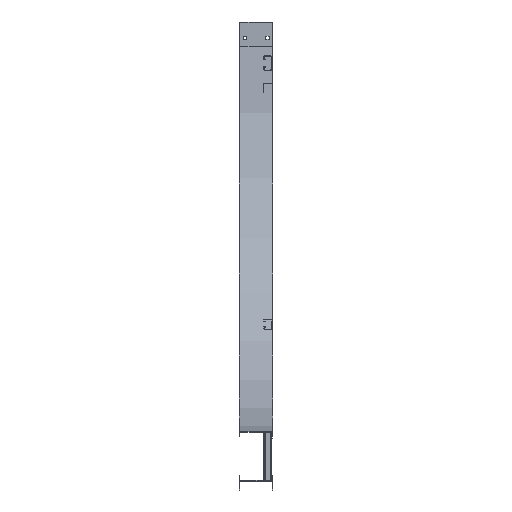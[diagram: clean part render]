
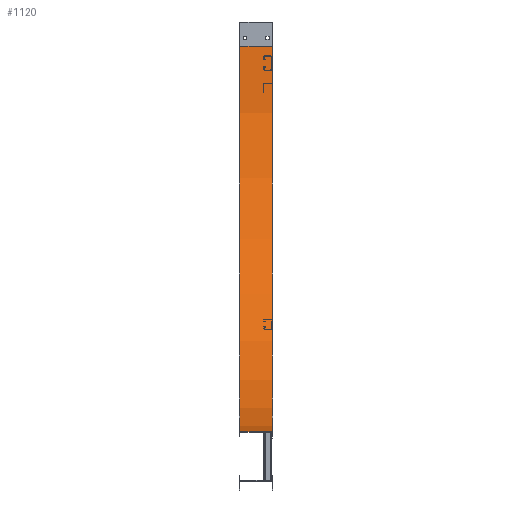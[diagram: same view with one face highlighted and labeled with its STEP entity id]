
A CAD part, left-side view. The second image highlights one B-rep face of the part: STEP entity #1120.
In plain terms, the highlighted cylindrical face has radius 1219.2 mm (diameter 2438.4 mm), a partial arc.
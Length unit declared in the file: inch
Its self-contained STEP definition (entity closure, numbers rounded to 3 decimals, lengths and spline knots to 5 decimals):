
#157=CARTESIAN_POINT('',(4.095,-48.,3.));
#158=DIRECTION('',(1.,0.,0.));
#159=DIRECTION('',(0.,1.,0.));
#160=AXIS2_PLACEMENT_3D('',#157,#158,#159);
#350=DIRECTION('',(1.,0.,0.));
#351=VECTOR('',#350,4.015);
#352=CARTESIAN_POINT('',(0.08,-48.,51.));
#353=LINE('',#352,#351);
#390=DIRECTION('',(1.,0.,0.));
#391=VECTOR('',#390,4.015);
#392=CARTESIAN_POINT('',(0.08,0.,3.));
#393=LINE('',#392,#391);
#394=CARTESIAN_POINT('',(0.08,-48.,3.));
#395=DIRECTION('',(1.,0.,0.));
#396=DIRECTION('',(0.,1.,0.));
#397=AXIS2_PLACEMENT_3D('',#394,#395,#396);
#521=CARTESIAN_POINT('',(0.08,0.,3.));
#522=CARTESIAN_POINT('',(4.095,0.,3.));
#523=VERTEX_POINT('',#521);
#524=VERTEX_POINT('',#522);
#545=CARTESIAN_POINT('',(0.08,-48.,51.));
#546=CARTESIAN_POINT('',(4.095,-48.,51.));
#547=VERTEX_POINT('',#545);
#548=VERTEX_POINT('',#546);
#1109=CARTESIAN_POINT('',(-1.,-48.,3.));
#1110=DIRECTION('',(1.,0.,0.));
#1111=DIRECTION('',(0.,-1.,0.));
#1112=AXIS2_PLACEMENT_3D('',#1109,#1110,#1111);
#1113=CYLINDRICAL_SURFACE('',#1112,48.);
#1114=ORIENTED_EDGE('',*,*,#894,.F.);
#1115=ORIENTED_EDGE('',*,*,#935,.T.);
#1116=ORIENTED_EDGE('',*,*,#1082,.T.);
#1117=ORIENTED_EDGE('',*,*,#872,.F.);
#1118=EDGE_LOOP('',(#1114,#1115,#1116,#1117));
#1119=FACE_OUTER_BOUND('',#1118,.F.);
#1120=ADVANCED_FACE('',(#1119),#1113,.F.);
#161=CIRCLE('',#160,48.);
#398=CIRCLE('',#397,48.);
#872=EDGE_CURVE('',#524,#548,#161,.T.);
#894=EDGE_CURVE('',#523,#524,#393,.T.);
#935=EDGE_CURVE('',#523,#547,#398,.T.);
#1082=EDGE_CURVE('',#547,#548,#353,.T.);
